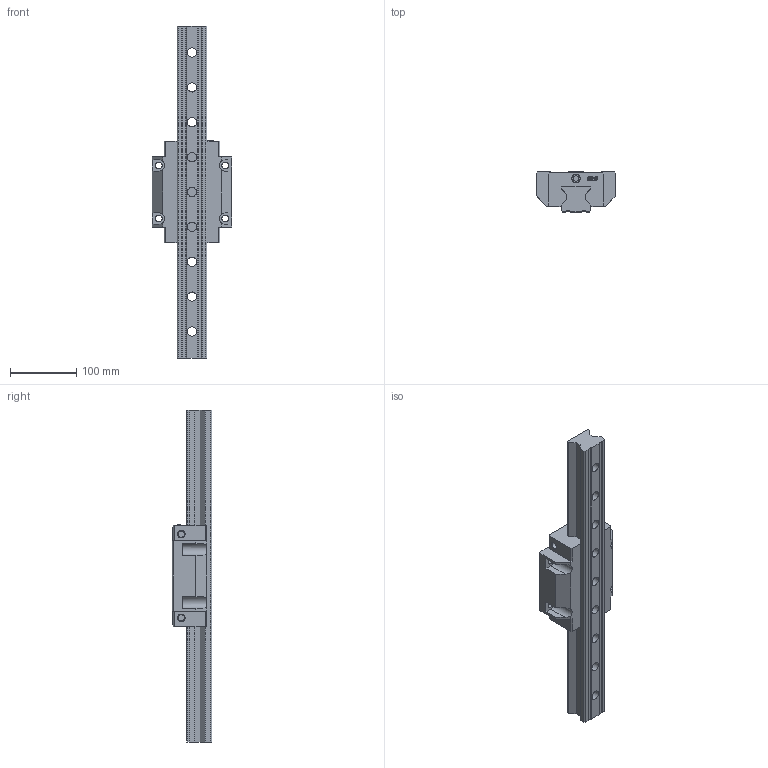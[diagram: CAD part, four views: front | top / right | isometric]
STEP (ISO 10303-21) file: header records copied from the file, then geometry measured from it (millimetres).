
FILE_DESCRIPTION(/* description */ (''),/* implementation_level */ '2;1');
FILE_NAME(/* name */ 'SRW45CC.stp',/* time_stamp */ '2022-01-22T15:25:31+08:00',/* author */ (''),/* organization */ (''),/* preprocessor_version */ 'ST-DEVELOPER v15',/* originating_system */ 'SIEMENS PLM Software NX 8.5',/* authorisation */ '');
FILE_SCHEMA (('CONFIG_CONTROL_DESIGN'));
Length unit declared in the file: millimetre
Products named in the file (1): _model1
Bounding box: 120 x 60 x 500 mm (x, y, z)
Volume: 1251477.1 mm3; surface area: 182312.3 mm2
Topology: 2 solids, 2 shells, 258 faces, 704 edges, 473 vertices
Faces by surface type: plane 157, extrusion 55, cylinder 36, cone 10
Full cylindrical faces by diameter (mm): 8.5 x2, 9.349 x4, 10.25 x6, 12.5 x2, 14 x9, 20 x9
Entity records: 8508 total; most frequent: CARTESIAN_POINT 2119, ORIENTED_EDGE 1314, DIRECTION 1120, EDGE_CURVE 657, VECTOR 492, VERTEX_POINT 468, LINE 437, EDGE_LOOP 353
